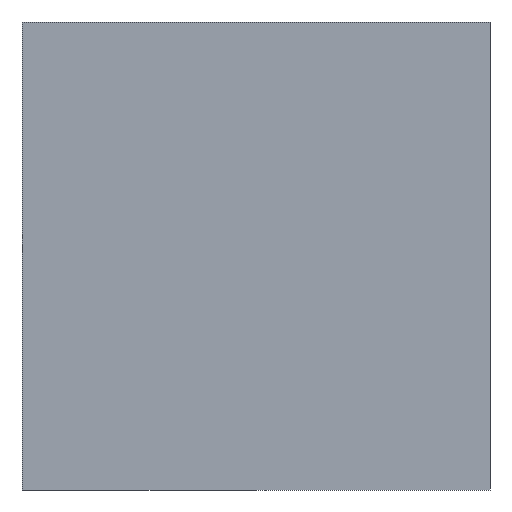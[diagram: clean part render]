
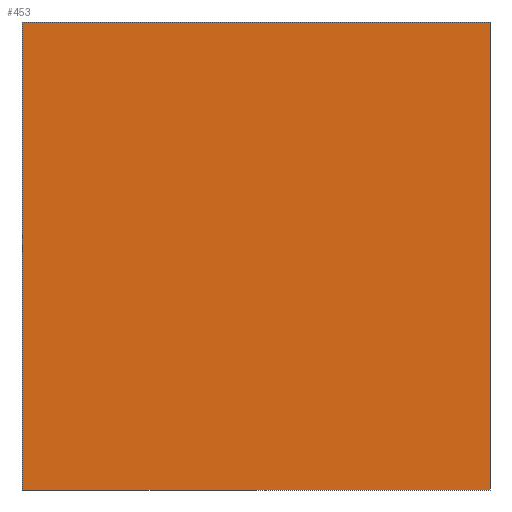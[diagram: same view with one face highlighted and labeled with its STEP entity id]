
A CAD part, left-side view. The second image highlights one B-rep face of the part: STEP entity #453.
In plain terms, the highlighted planar face has unit normal (-1, 0, 0).
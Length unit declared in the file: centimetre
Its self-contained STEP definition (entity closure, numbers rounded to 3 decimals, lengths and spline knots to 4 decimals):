
#39 = LINE ( 'NONE', #432, #228 ) ;
#72 = CARTESIAN_POINT ( 'NONE',  ( 0., 0., 1000. ) ) ;
#102 = EDGE_LOOP ( 'NONE', ( #151, #543, #401, #405 ) ) ;
#116 = EDGE_CURVE ( 'NONE', #495, #157, #174, .T. ) ;
#132 = DIRECTION ( 'NONE',  ( 0., -1., 0. ) ) ;
#134 = EDGE_CURVE ( 'NONE', #448, #157, #255, .T. ) ;
#151 = ORIENTED_EDGE ( 'NONE', *, *, #134, .T. ) ;
#157 = VERTEX_POINT ( 'NONE', #437 ) ;
#158 = FACE_OUTER_BOUND ( 'NONE', #102, .T. ) ;
#174 = LINE ( 'NONE', #390, #180 ) ;
#180 = VECTOR ( 'NONE', #472, 100. ) ;
#186 = AXIS2_PLACEMENT_3D ( 'NONE', #523, #531, #321 ) ;
#212 = CARTESIAN_POINT ( 'NONE',  ( 0., 1000., 0. ) ) ;
#220 = EDGE_CURVE ( 'NONE', #537, #448, #372, .T. ) ;
#228 = VECTOR ( 'NONE', #132, 100. ) ;
#255 = LINE ( 'NONE', #212, #330 ) ;
#281 = CARTESIAN_POINT ( 'NONE',  ( 0., 1000., 1000. ) ) ;
#299 = VECTOR ( 'NONE', #454, 100. ) ;
#321 = DIRECTION ( 'NONE',  ( 0., 0., -1. ) ) ;
#330 = VECTOR ( 'NONE', #386, 100. ) ;
#372 = LINE ( 'NONE', #281, #299 ) ;
#386 = DIRECTION ( 'NONE',  ( 0., -1., 0. ) ) ;
#390 = CARTESIAN_POINT ( 'NONE',  ( 0., 0., 1000. ) ) ;
#401 = ORIENTED_EDGE ( 'NONE', *, *, #538, .F. ) ;
#405 = ORIENTED_EDGE ( 'NONE', *, *, #220, .T. ) ;
#422 = CARTESIAN_POINT ( 'NONE',  ( 0., 1000., 1000. ) ) ;
#432 = CARTESIAN_POINT ( 'NONE',  ( 0., 1000., 1000. ) ) ;
#437 = CARTESIAN_POINT ( 'NONE',  ( 0., 0., 0. ) ) ;
#443 = PLANE ( 'NONE',  #186 ) ;
#448 = VERTEX_POINT ( 'NONE', #546 ) ;
#453 = ADVANCED_FACE ( 'NONE', ( #158 ), #443, .F. ) ;
#454 = DIRECTION ( 'NONE',  ( 0., 0., -1. ) ) ;
#472 = DIRECTION ( 'NONE',  ( 0., 0., -1. ) ) ;
#495 = VERTEX_POINT ( 'NONE', #72 ) ;
#523 = CARTESIAN_POINT ( 'NONE',  ( 0., 1000., 1000. ) ) ;
#531 = DIRECTION ( 'NONE',  ( 1., 0., 0. ) ) ;
#537 = VERTEX_POINT ( 'NONE', #422 ) ;
#538 = EDGE_CURVE ( 'NONE', #537, #495, #39, .T. ) ;
#543 = ORIENTED_EDGE ( 'NONE', *, *, #116, .F. ) ;
#546 = CARTESIAN_POINT ( 'NONE',  ( 0., 1000., 0. ) ) ;
